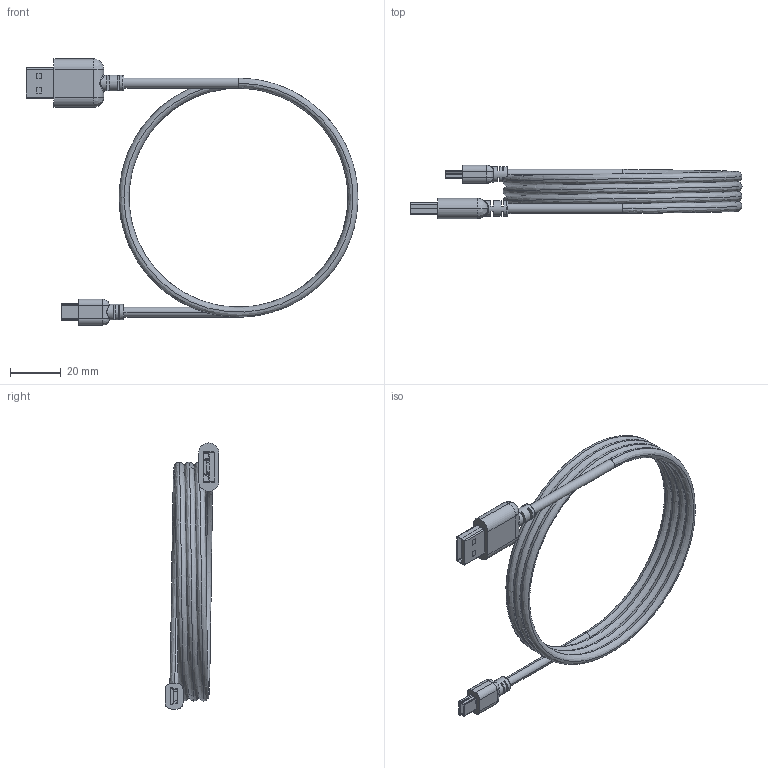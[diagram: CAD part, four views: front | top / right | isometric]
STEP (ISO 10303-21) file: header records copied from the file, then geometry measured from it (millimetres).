
FILE_DESCRIPTION (( 'STEP AP214' ), '1' );
FILE_NAME ('ACC-CBL-USB.STEP', '2016-01-04T19:05:35', ( 'Daryl' ), ( 'Microsoft' ), 'SwSTEP 2.0', 'SolidWorks 2014', '' );
FILE_SCHEMA (( 'AUTOMOTIVE_DESIGN' ));
Length unit declared in the file: millimetre
Products named in the file (1): ACC-CBL-USB
Bounding box: 130.44 x 21.2 x 104.55 mm (x, y, z)
Surface area: 16009.8 mm2 (no closed solid volume)
Topology: 0 solids, 3 shells, 186 faces, 509 edges, 327 vertices
Faces by surface type: plane 115, cylinder 47, bspline 22, torus 2
Full cylindrical faces by diameter (mm): 3.9 x1, 6.1 x1, 6.15 x1
Entity records: 12433 total; most frequent: CARTESIAN_POINT 5829, ORIENTED_EDGE 921, DIRECTION 907, EDGE_CURVE 499, LINE 327, VECTOR 327, VERTEX_POINT 326, AXIS2_PLACEMENT_3D 290
